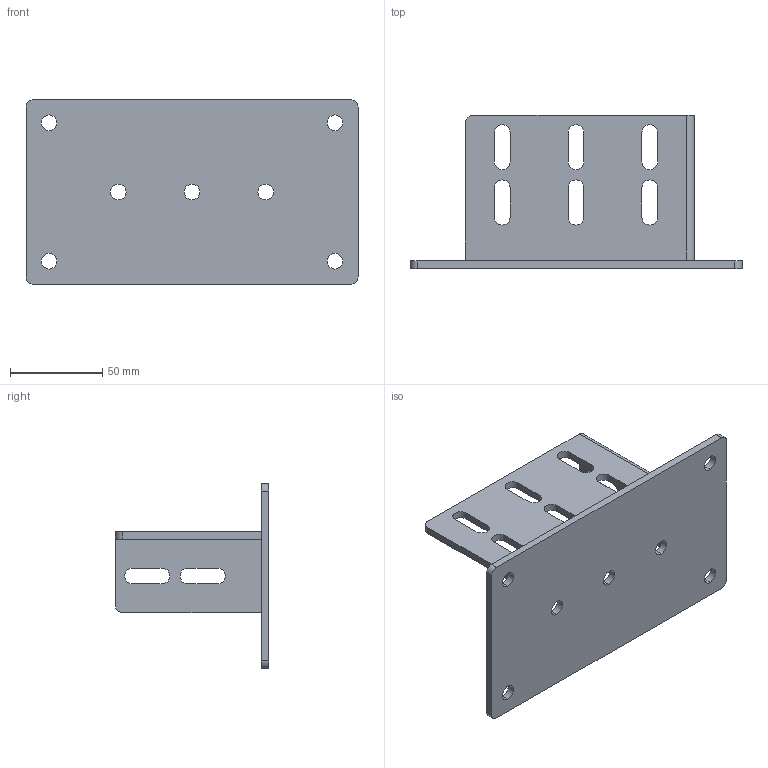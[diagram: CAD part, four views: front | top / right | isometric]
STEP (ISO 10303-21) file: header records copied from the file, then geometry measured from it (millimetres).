
FILE_DESCRIPTION (( 'STEP AP214' ), '1' );
FILE_NAME ('11404 Ôóíäàìåíòíàÿ îïîðà 40õ120.STEP', '2023-02-07T05:23:31', ( '' ), ( '' ), 'SwSTEP 2.0', 'SolidWorks 2020', '' );
FILE_SCHEMA (( 'AUTOMOTIVE_DESIGN' ));
Length unit declared in the file: millimetre
Products named in the file (5): 栺樇罻 1; 11404 Ôóíäàìåíòíàÿ îïîðà 40õ120; ﾎ魵瑙韃; 栱僦罻; 栺樇罻 2
Assembly tree (5 placements, depth 2):
  11404 Ôóíäàìåíòíàÿ îïîðà 40õ120
    栺樇罻 2
    栺樇罻 1
    栱僦罻
    ﾎ魵瑙韃  x2
Bounding box: 180 x 83 x 100 mm (x, y, z)
Volume: 186069.8 mm3; surface area: 104021.3 mm2
Topology: 5 solids, 5 shells, 99 faces, 267 edges, 178 vertices
Faces by surface type: cylinder 55, plane 44
Entity records: 2635 total; most frequent: DIRECTION 441, CARTESIAN_POINT 418, ORIENTED_EDGE 402, EDGE_CURVE 201, AXIS2_PLACEMENT_3D 157, VERTEX_POINT 134, VECTOR 127, LINE 127
